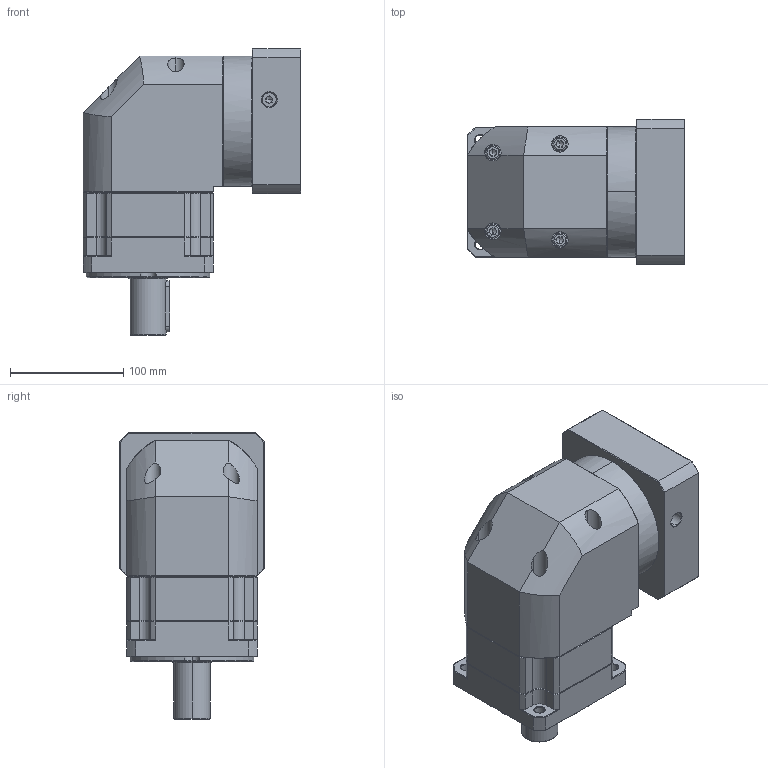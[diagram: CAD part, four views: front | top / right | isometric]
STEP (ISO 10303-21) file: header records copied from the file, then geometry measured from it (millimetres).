
FILE_DESCRIPTION (( 'STEP AP214' ), '1' );
FILE_NAME ('ZBR115A-D32-L1-P2-24-110-145-M8.step', '2023-08-26T12:37:05', ( '' ), ( '' ), 'SwSTEP 2.0', 'SolidWorks 2016', '' );
FILE_SCHEMA (( 'AUTOMOTIVE_DESIGN' ));
Length unit declared in the file: millimetre
Products named in the file (1): ZBR115A-D32-L1-P2-24-110-145-M8
Bounding box: 192.4 x 128 x 253 mm (x, y, z)
Volume: 3054979.6 mm3; surface area: 254837.4 mm2
Topology: 6 solids, 6 shells, 2380 faces, 6241 edges, 3965 vertices
Faces by surface type: plane 1139, cylinder 439, bspline 424, cone 370, torus 8
Entity records: 128362 total; most frequent: CARTESIAN_POINT 47172, ORIENTED_EDGE 12422, DIRECTION 9798, EDGE_CURVE 6211, VECTOR 3992, LINE 3992, VERTEX_POINT 3965, AXIS2_PLACEMENT_3D 2903
